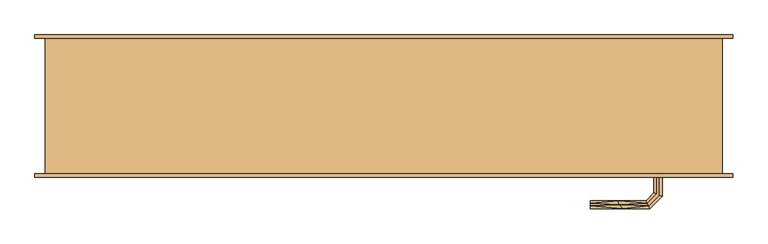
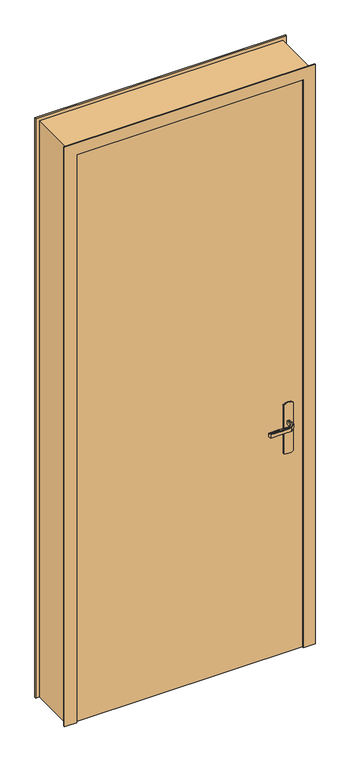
"""IFC4 building model written with IfcOpenShell, lengths in millimetres: door geometry, PP EXT - Local poubelle  (0.93m x 2.50m)."""

from ifc_helpers import new_model, si_unit, frame, origin, origin_with_axes, place, context, project, spatial, polyline, outline, extrude, faceted_brep, source, transform, mapped, element, save


def door_b39450a5(model_context):
    return source(origin(), model_context, "Body", "SolidModel", [
        extrude(outline(polyline([(870.0, 995.0), (1080.0, 995.0), (1083.9960169, 985.3527618), (1085.3589838, 975.0), (1083.9960169, 964.6472382), (1080.0, 955.0), (870.0, 955.0), (866.0039831, 964.6472382), (864.6410162, 975.0), (866.0039831, 985.3527618), (870.0, 995.0)])), frame((0.0, -5.0, 0.0), z_axis=(0.0, 1.0, 0.0), x_axis=(0.0, 0.0, 1.0)), (0.0, 0.0, 1.0), 5.0),
        extrude(outline(polyline([(870.0, 995.0), (1080.0, 995.0), (1083.9960169, 985.3527618), (1085.3589838, 975.0), (1083.9960169, 964.6472382), (1080.0, 955.0), (870.0, 955.0), (866.0039831, 964.6472382), (864.6410162, 975.0), (866.0039831, 985.3527618), (870.0, 995.0)])), frame((0.0, 40.0, 0.0), z_axis=(0.0, 1.0, 0.0), x_axis=(0.0, 0.0, 1.0)), (0.0, 0.0, 1.0), 5.0),
        extrude(outline(polyline([(1035.0, 40.0), (1035.0, 0.0), (105.0, 0.0), (105.0, 40.0), (1035.0, 40.0)])), origin_with_axes(), (0.0, 0.0, 1.0), 2465.0),
        faceted_brep([(972.9747013, 45.0, 992.2195592), (977.0252987, 45.0, 992.2195592), (981.0, 45.0, 993.0), (981.0, 45.0, 1007.0), (977.0252987, 45.0, 1007.7804408), (972.9747013, 45.0, 1007.7804408), (969.0, 45.0, 1007.0), (969.0, 45.0, 993.0), (969.0, 67.4852045, 1007.0), (969.0, 67.4852045, 993.0), (972.9747013, 69.1315797, 1007.7804408), (977.0252987, 70.8093921, 1007.7804408), (960.8389062, 86.9957845, 1007.7804408), (959.1610938, 82.9451872, 1007.7804408), (981.0, 72.4557673, 1007.0), (981.0, 72.4557673, 993.0), (977.0252987, 70.8093921, 992.2195592), (972.9747013, 69.1315797, 992.2195592), (959.1610938, 82.9451872, 992.2195592), (960.8389062, 86.9957845, 992.2195592), (957.5147186, 78.9704859, 1007.0), (957.5147186, 78.9704859, 993.0), (962.4852814, 90.9704859, 1007.0), (962.4852814, 90.9704859, 993.0), (874.9542163, 82.9451872, 1007.7804408), (874.9542163, 86.9957845, 1007.7804408), (874.9542163, 90.9704859, 1007.0), (874.9542163, 90.9704859, 993.0), (874.9542163, 86.9957845, 992.2195592), (874.9542163, 82.9451872, 992.2195592), (874.9542163, 78.9704859, 993.0), (874.9542163, 78.9704859, 1007.0), (916.2344675, 78.9704859, 1007.0), (916.2344794, 78.9704859, 993.0), (917.0576551, 84.9704859, 1007.8786868), (922.5547942, 90.9704859, 1007.0), (922.5547957, 90.9704859, 993.0), (917.0576549, 84.9704858, 992.1213132)], [[[0, 1, 2, 3, 4, 5, 6, 7]], [[8, 9, 7, 6]], [[5, 10, 8, 6]], [[5, 4, 11, 12, 13, 10]], [[3, 14, 11, 4]], [[14, 3, 2, 15]], [[2, 1, 16, 15]], [[1, 0, 17, 18, 19, 16]], [[0, 7, 9, 17]], [[20, 21, 9, 8]], [[8, 10, 13, 20]], [[14, 22, 12, 11]], [[23, 22, 14, 15]], [[15, 16, 19, 23]], [[17, 9, 21, 18]], [[24, 25, 26, 27, 28, 29, 30, 31]], [[21, 20, 32, 31, 30, 33]], [[34, 24, 32]], [[25, 34, 35]], [[13, 32, 20]], [[24, 31, 32]], [[25, 35, 26]], [[35, 12, 22]], [[34, 12, 35]], [[34, 13, 12]], [[34, 32, 13]], [[24, 34, 25]], [[22, 23, 36, 27, 26, 35]], [[37, 28, 36]], [[36, 28, 27]], [[36, 23, 19]], [[18, 33, 37]], [[33, 18, 21]], [[30, 29, 33]], [[37, 29, 28]], [[37, 33, 29]], [[37, 36, 19]], [[18, 37, 19]]]),
        faceted_brep([(1070.0, 200.0, 0.0), (1070.0, 0.0, 0.0), (1085.0, 0.0, 0.0), (1085.0, -5.0, 0.0), (1035.0, -5.0, 0.0), (1035.0, 40.0, 0.0), (1020.0, 40.0, 0.0), (1020.0, 205.0, 0.0), (1085.0, 205.0, 0.0), (1085.0, 200.0, 0.0), (1085.0, 200.0, 2515.0), (55.0, 200.0, 2515.0), (55.0, 200.0, 0.0), (70.0, 200.0, 0.0), (70.0, 200.0, 2500.0), (1070.0, 200.0, 2500.0), (1085.0, 205.0, 2515.0), (1020.0, 205.0, 2450.0), (120.0, 205.0, 2450.0), (120.0, 205.0, 0.0), (55.0, 205.0, 0.0), (55.0, 205.0, 2515.0), (1020.0, 40.0, 2450.0), (1035.0, 40.0, 2465.0), (105.0, 40.0, 2465.0), (105.0, 40.0, 0.0), (120.0, 40.0, 0.0), (120.0, 40.0, 2450.0), (1035.0, -5.0, 2465.0), (1085.0, -5.0, 2515.0), (55.0, -5.0, 2515.0), (55.0, -5.0, 0.0), (105.0, -5.0, 0.0), (105.0, -5.0, 2465.0), (1085.0, 0.0, 2515.0), (1070.0, 0.0, 2500.0), (70.0, 0.0, 2500.0), (70.0, 0.0, 0.0), (55.0, 0.0, 0.0), (55.0, 0.0, 2515.0)], [[[0, 1, 2, 3, 4, 5, 6, 7, 8, 9]], [[9, 10, 11, 12, 13, 14, 15, 0]], [[8, 16, 10, 9]], [[7, 17, 18, 19, 20, 21, 16, 8]], [[7, 6, 22, 17]], [[5, 23, 24, 25, 26, 27, 22, 6]], [[5, 4, 28, 23]], [[3, 29, 30, 31, 32, 33, 28, 4]], [[2, 34, 29, 3]], [[1, 35, 36, 37, 38, 39, 34, 2]], [[0, 15, 35, 1]], [[14, 13, 37, 36]], [[13, 12, 20, 19, 26, 25, 32, 31, 38, 37]], [[21, 20, 12, 11]], [[27, 26, 19, 18]], [[33, 32, 25, 24]], [[39, 38, 31, 30]], [[16, 21, 11, 10]], [[22, 27, 18, 17]], [[28, 33, 24, 23]], [[34, 39, 30, 29]], [[15, 14, 36, 35]]]),
        faceted_brep([(972.9747013, -5.0, 1007.7804408), (977.0252987, -5.0, 1007.7804408), (981.0, -5.0, 1007.0), (981.0, -5.0, 993.0), (977.0252987, -5.0, 992.2195592), (972.9747013, -5.0, 992.2195592), (969.0, -5.0, 993.0), (969.0, -5.0, 1007.0), (977.0252987, -31.0045755, 1007.7804408), (981.0, -32.6509507, 1007.0), (972.9747013, -29.3267632, 1007.7804408), (959.2986025, -43.002862, 1007.7804408), (960.9764148, -47.0534593, 1007.7804408), (969.0, -27.680388, 1007.0), (969.0, -27.680388, 993.0), (972.9747013, -29.3267632, 992.2195592), (977.0252987, -31.0045755, 992.2195592), (960.9764148, -47.0534593, 992.2195592), (959.2986025, -43.002862, 992.2195592), (981.0, -32.6509507, 993.0), (962.62279, -51.0281607, 1007.0), (957.6522273, -39.0281607, 1007.0), (957.6522273, -39.0281607, 993.0), (962.62279, -51.0281607, 993.0), (874.9813594, -51.0281607, 1007.0), (874.9813594, -47.0534593, 1007.7804408), (874.9813594, -43.002862, 1007.7804408), (874.9813594, -39.0281607, 1007.0), (874.9813594, -39.0281607, 993.0), (874.9813594, -43.002862, 992.2195592), (874.9813594, -47.0534593, 992.2195592), (874.9813594, -51.0281607, 993.0), (917.1399809, -45.0281607, 1007.8786868), (922.6923028, -51.0281607, 1007.0), (916.3167933, -39.0281607, 1007.0), (916.3167933, -39.0281607, 993.0), (917.1399811, -45.0281608, 992.1213132), (922.6923104, -51.0281607, 993.0)], [[[0, 1, 2, 3, 4, 5, 6, 7]], [[2, 1, 8, 9]], [[1, 0, 10, 11, 12, 8]], [[0, 7, 13, 10]], [[14, 13, 7, 6]], [[5, 15, 14, 6]], [[5, 4, 16, 17, 18, 15]], [[3, 19, 16, 4]], [[9, 19, 3, 2]], [[9, 8, 12, 20]], [[10, 13, 21, 11]], [[22, 21, 13, 14]], [[14, 15, 18, 22]], [[16, 19, 23, 17]], [[20, 23, 19, 9]], [[24, 25, 26, 27, 28, 29, 30, 31]], [[32, 25, 33]], [[33, 25, 24]], [[33, 20, 12]], [[11, 34, 32]], [[34, 11, 21]], [[27, 26, 34]], [[32, 26, 25]], [[32, 34, 26]], [[32, 33, 12]], [[11, 32, 12]], [[21, 22, 35, 28, 27, 34]], [[36, 29, 35]], [[30, 36, 37]], [[18, 35, 22]], [[29, 28, 35]], [[30, 37, 31]], [[37, 17, 23]], [[36, 17, 37]], [[36, 18, 17]], [[36, 35, 18]], [[29, 36, 30]], [[23, 20, 33, 24, 31, 37]]]),
    ])


if __name__ == "__main__":
    model = new_model("IFC4")
    model_context = context("Model", 3, world=origin())
    ifc_project = project(units=[si_unit("LENGTHUNIT", "METRE", prefix="MILLI")], contexts=[model_context])
    site = spatial("IfcSite", under=ifc_project)
    building = spatial("IfcBuilding", under=site)
    placement = place(None, origin())
    door_shape = door_b39450a5(model_context)
    element("IfcDoor", 1, ObjectType="PP EXT - Local poubelle  (0.93m x 2.50m)", at=placement, inside=building, context=model_context, shape_type="MappedRepresentation", body=[
        mapped(door_shape, transform((0.0, 0.0, 0.0), x_axis=(1.0, 0.0, 0.0), y_axis=(0.0, 1.0, 0.0), z_axis=(0.0, 0.0, 1.0))),
    ])
    save(model, "model.ifc")
